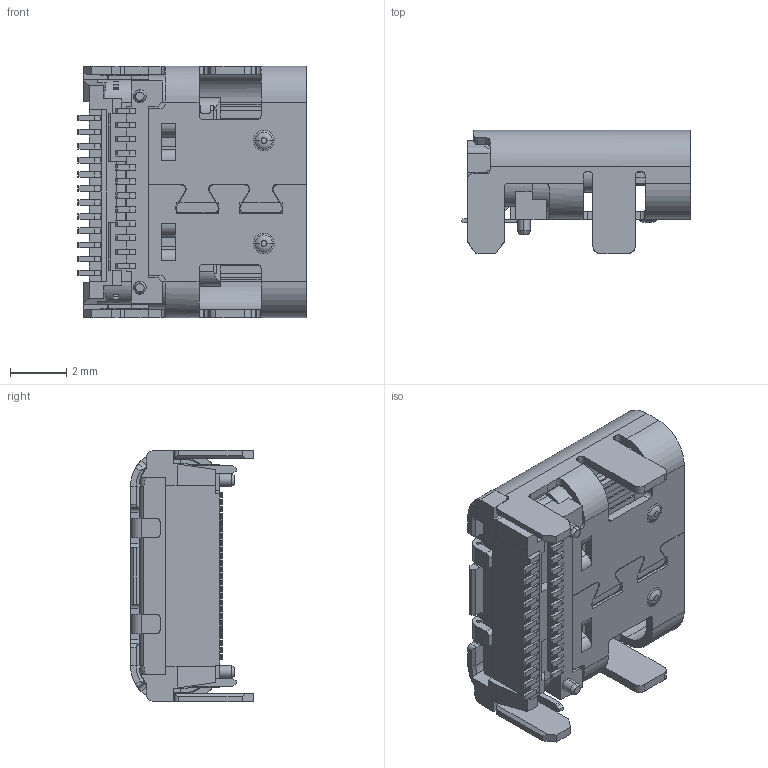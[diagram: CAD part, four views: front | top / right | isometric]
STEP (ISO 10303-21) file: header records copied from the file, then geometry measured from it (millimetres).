
FILE_DESCRIPTION((''),'2;1');
FILE_NAME('GT-USB-7013A02','2023-05-15T',('WYH'),(''),'PRO/ENGINEER BY PARAMETRIC TECHNOLOGY CORPORATION, 2013040','PRO/ENGINEER BY PARAMETRIC TECHNOLOGY CORPORATION, 2013040','');
FILE_SCHEMA(('CONFIG_CONTROL_DESIGN'));
Length unit declared in the file: millimetre
Products named in the file (1): GT-USB-7013A02
Bounding box: 8.1 x 4.36 x 8.94 mm (x, y, z)
Volume: 124.7 mm3; surface area: 535.2 mm2
Topology: 1 solids, 9 shells, 1331 faces, 3811 edges, 2487 vertices
Faces by surface type: plane 1059, cylinder 237, torus 14, cone 12, bspline 8, sphere 1
Entity records: 43482 total; most frequent: CARTESIAN_POINT 8259, ORIENTED_EDGE 7622, DIRECTION 6945, EDGE_CURVE 3811, VECTOR 3157, LINE 3157, VERTEX_POINT 2487, AXIS2_PLACEMENT_3D 1894
